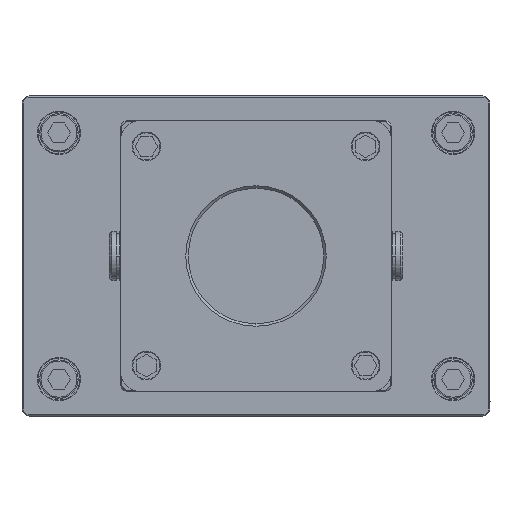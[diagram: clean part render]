
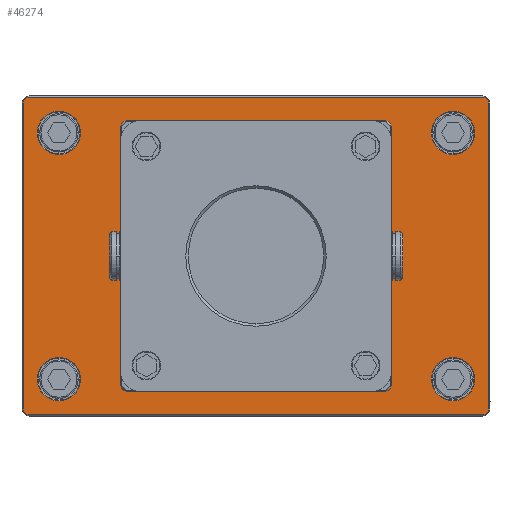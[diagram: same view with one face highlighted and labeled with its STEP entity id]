
A CAD part, front view. The second image highlights one B-rep face of the part: STEP entity #46274.
In plain terms, the highlighted planar face has unit normal (0, -1, 0) as drawn and (0, 1, 0) by its records, which use the part's own axes.
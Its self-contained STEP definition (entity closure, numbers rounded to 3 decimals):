
#44726=CARTESIAN_POINT('',(0.,9.,0.));
#44727=DIRECTION('',(0.,-1.,0.));
#44728=DIRECTION('',(1.,0.,0.));
#44729=AXIS2_PLACEMENT_3D('',#44726,#44727,#44728);
#44731=CARTESIAN_POINT('',(0.,9.,0.));
#44732=DIRECTION('',(0.,-1.,0.));
#44733=DIRECTION('',(-1.,0.,0.));
#44734=AXIS2_PLACEMENT_3D('',#44731,#44732,#44733);
#44736=CARTESIAN_POINT('',(-92.,9.,-62.));
#44737=DIRECTION('',(0.,1.,0.));
#44738=DIRECTION('',(0.,0.,-1.));
#44739=AXIS2_PLACEMENT_3D('',#44736,#44737,#44738);
#44741=DIRECTION('',(-1.,0.,0.));
#44742=VECTOR('',#44741,184.);
#44743=CARTESIAN_POINT('',(92.,9.,
-64.5));
#44744=LINE('',#44743,#44742);
#44745=CARTESIAN_POINT('',(92.,9.,-62.));
#44746=DIRECTION('',(0.,1.,0.));
#44747=DIRECTION('',(1.,0.,0.));
#44748=AXIS2_PLACEMENT_3D('',#44745,#44746,#44747);
#44750=DIRECTION('',(0.,0.,-1.));
#44751=VECTOR('',#44750,124.);
#44752=CARTESIAN_POINT('',(94.5,9.,62.));
#44753=LINE('',#44752,#44751);
#44754=CARTESIAN_POINT('',(92.,9.,62.));
#44755=DIRECTION('',(0.,1.,0.));
#44756=DIRECTION('',(0.,0.,1.));
#44757=AXIS2_PLACEMENT_3D('',#44754,#44755,#44756);
#44759=DIRECTION('',(1.,0.,0.));
#44760=VECTOR('',#44759,184.);
#44761=CARTESIAN_POINT('',(-92.,9.,
64.5));
#44762=LINE('',#44761,#44760);
#44763=CARTESIAN_POINT('',(-92.,9.,62.));
#44764=DIRECTION('',(0.,1.,0.));
#44765=DIRECTION('',(-1.,0.,0.));
#44766=AXIS2_PLACEMENT_3D('',#44763,#44764,#44765);
#44768=DIRECTION('',(0.,0.,1.));
#44769=VECTOR('',#44768,124.);
#44770=CARTESIAN_POINT('',(-94.5,9.,
-62.));
#44771=LINE('',#44770,#44769);
#44772=CARTESIAN_POINT('',(80.,9.,50.));
#44773=DIRECTION('',(0.,-1.,0.));
#44774=DIRECTION('',(1.,0.,0.));
#44775=AXIS2_PLACEMENT_3D('',#44772,#44773,#44774);
#44777=CARTESIAN_POINT('',(80.,9.,50.));
#44778=DIRECTION('',(0.,-1.,0.));
#44779=DIRECTION('',(-1.,0.,0.));
#44780=AXIS2_PLACEMENT_3D('',#44777,#44778,#44779);
#44782=CARTESIAN_POINT('',(-80.,9.,50.));
#44783=DIRECTION('',(0.,-1.,0.));
#44784=DIRECTION('',(1.,0.,0.));
#44785=AXIS2_PLACEMENT_3D('',#44782,#44783,#44784);
#44787=CARTESIAN_POINT('',(-80.,9.,50.));
#44788=DIRECTION('',(0.,-1.,0.));
#44789=DIRECTION('',(-1.,0.,0.));
#44790=AXIS2_PLACEMENT_3D('',#44787,#44788,#44789);
#44792=CARTESIAN_POINT('',(80.,9.,-50.));
#44793=DIRECTION('',(0.,-1.,0.));
#44794=DIRECTION('',(1.,0.,0.));
#44795=AXIS2_PLACEMENT_3D('',#44792,#44793,#44794);
#44797=CARTESIAN_POINT('',(80.,9.,-50.));
#44798=DIRECTION('',(0.,-1.,0.));
#44799=DIRECTION('',(-1.,0.,0.));
#44800=AXIS2_PLACEMENT_3D('',#44797,#44798,#44799);
#44802=CARTESIAN_POINT('',(-80.,9.,-50.));
#44803=DIRECTION('',(0.,-1.,0.));
#44804=DIRECTION('',(1.,0.,0.));
#44805=AXIS2_PLACEMENT_3D('',#44802,#44803,#44804);
#44807=CARTESIAN_POINT('',(-80.,9.,-50.));
#44808=DIRECTION('',(0.,-1.,0.));
#44809=DIRECTION('',(-1.,0.,0.));
#44810=AXIS2_PLACEMENT_3D('',#44807,#44808,#44809);
#44812=CARTESIAN_POINT('',(-44.5,9.,-44.5));
#44813=DIRECTION('',(0.,1.,0.));
#44814=DIRECTION('',(1.,0.,0.));
#44815=AXIS2_PLACEMENT_3D('',#44812,#44813,#44814);
#44817=CARTESIAN_POINT('',(-44.5,9.,-44.5));
#44818=DIRECTION('',(0.,1.,0.));
#44819=DIRECTION('',(-1.,0.,0.));
#44820=AXIS2_PLACEMENT_3D('',#44817,#44818,#44819);
#44822=CARTESIAN_POINT('',(-44.5,9.,44.5));
#44823=DIRECTION('',(0.,1.,0.));
#44824=DIRECTION('',(0.,0.,-1.));
#44825=AXIS2_PLACEMENT_3D('',#44822,#44823,#44824);
#44827=CARTESIAN_POINT('',(-44.5,9.,44.5));
#44828=DIRECTION('',(0.,1.,0.));
#44829=DIRECTION('',(0.,0.,1.));
#44830=AXIS2_PLACEMENT_3D('',#44827,#44828,#44829);
#44832=CARTESIAN_POINT('',(44.5,9.,44.5));
#44833=DIRECTION('',(0.,1.,0.));
#44834=DIRECTION('',(-1.,0.,0.));
#44835=AXIS2_PLACEMENT_3D('',#44832,#44833,#44834);
#44837=CARTESIAN_POINT('',(44.5,9.,44.5));
#44838=DIRECTION('',(0.,1.,0.));
#44839=DIRECTION('',(1.,0.,0.));
#44840=AXIS2_PLACEMENT_3D('',#44837,#44838,#44839);
#44842=CARTESIAN_POINT('',(44.5,9.,-44.5));
#44843=DIRECTION('',(0.,1.,0.));
#44844=DIRECTION('',(0.,0.,1.));
#44845=AXIS2_PLACEMENT_3D('',#44842,#44843,#44844);
#44847=CARTESIAN_POINT('',(44.5,9.,-44.5));
#44848=DIRECTION('',(0.,1.,0.));
#44849=DIRECTION('',(0.,0.,-1.));
#44850=AXIS2_PLACEMENT_3D('',#44847,#44848,#44849);
#45758=CARTESIAN_POINT('',(38.,9.,0.));
#45759=CARTESIAN_POINT('',(-38.,9.,0.));
#45760=VERTEX_POINT('',#45758);
#45761=VERTEX_POINT('',#45759);
#45806=CARTESIAN_POINT('',(-92.,9.,-64.5));
#45807=CARTESIAN_POINT('',(-94.5,9.,-62.));
#45808=VERTEX_POINT('',#45806);
#45809=VERTEX_POINT('',#45807);
#45814=CARTESIAN_POINT('',(-94.5,9.,
62.));
#45815=VERTEX_POINT('',#45814);
#45818=CARTESIAN_POINT('',(-92.,9.,64.5));
#45819=VERTEX_POINT('',#45818);
#45822=CARTESIAN_POINT('',(92.,9.,64.5));
#45823=VERTEX_POINT('',#45822);
#45826=CARTESIAN_POINT('',(94.5,9.,62.));
#45827=VERTEX_POINT('',#45826);
#45830=CARTESIAN_POINT('',(94.5,9.,
-62.));
#45831=VERTEX_POINT('',#45830);
#45834=CARTESIAN_POINT('',(92.,9.,-64.5));
#45835=VERTEX_POINT('',#45834);
#45854=CARTESIAN_POINT('',(88.8,9.,50.));
#45855=CARTESIAN_POINT('',(71.2,9.,50.));
#45856=VERTEX_POINT('',#45854);
#45857=VERTEX_POINT('',#45855);
#45878=CARTESIAN_POINT('',(-71.2,9.,50.));
#45879=CARTESIAN_POINT('',(-88.8,9.,50.));
#45880=VERTEX_POINT('',#45878);
#45881=VERTEX_POINT('',#45879);
#45894=CARTESIAN_POINT('',(88.8,9.,-50.));
#45895=CARTESIAN_POINT('',(71.2,9.,-50.));
#45896=VERTEX_POINT('',#45894);
#45897=VERTEX_POINT('',#45895);
#45902=CARTESIAN_POINT('',(-71.2,9.,-50.));
#45903=CARTESIAN_POINT('',(-88.8,9.,-50.));
#45904=VERTEX_POINT('',#45902);
#45905=VERTEX_POINT('',#45903);
#46002=CARTESIAN_POINT('',(-39.5,9.,-44.5));
#46003=CARTESIAN_POINT('',(-49.5,9.,-44.5));
#46004=VERTEX_POINT('',#46002);
#46005=VERTEX_POINT('',#46003);
#46010=CARTESIAN_POINT('',(-44.5,9.,39.5));
#46011=CARTESIAN_POINT('',(-44.5,9.,49.5));
#46012=VERTEX_POINT('',#46010);
#46013=VERTEX_POINT('',#46011);
#46018=CARTESIAN_POINT('',(39.5,9.,44.5));
#46019=CARTESIAN_POINT('',(49.5,9.,44.5));
#46020=VERTEX_POINT('',#46018);
#46021=VERTEX_POINT('',#46019);
#46026=CARTESIAN_POINT('',(44.5,9.,-39.5));
#46027=CARTESIAN_POINT('',(44.5,9.,-49.5));
#46028=VERTEX_POINT('',#46026);
#46029=VERTEX_POINT('',#46027);
#46198=CARTESIAN_POINT('',(0.,9.,0.));
#46199=DIRECTION('',(0.,1.,0.));
#46200=DIRECTION('',(1.,0.,0.));
#46201=AXIS2_PLACEMENT_3D('',#46198,#46199,#46200);
#46202=PLANE('',#46201);
#46204=ORIENTED_EDGE('',*,*,#46203,.F.);
#46206=ORIENTED_EDGE('',*,*,#46205,.F.);
#46208=ORIENTED_EDGE('',*,*,#46207,.F.);
#46210=ORIENTED_EDGE('',*,*,#46209,.F.);
#46212=ORIENTED_EDGE('',*,*,#46211,.F.);
#46214=ORIENTED_EDGE('',*,*,#46213,.F.);
#46216=ORIENTED_EDGE('',*,*,#46215,.F.);
#46218=ORIENTED_EDGE('',*,*,#46217,.F.);
#46219=EDGE_LOOP('',(#46204,#46206,#46208,#46210,#46212,#46214,#46216,#46218));
#46220=FACE_OUTER_BOUND('',#46219,.F.);
#46222=ORIENTED_EDGE('',*,*,#46221,.F.);
#46223=ORIENTED_EDGE('',*,*,#46188,.F.);
#46224=EDGE_LOOP('',(#46222,#46223));
#46225=FACE_BOUND('',#46224,.F.);
#46227=ORIENTED_EDGE('',*,*,#46226,.F.);
#46229=ORIENTED_EDGE('',*,*,#46228,.F.);
#46230=EDGE_LOOP('',(#46227,#46229));
#46231=FACE_BOUND('',#46230,.F.);
#46233=ORIENTED_EDGE('',*,*,#46232,.F.);
#46235=ORIENTED_EDGE('',*,*,#46234,.F.);
#46236=EDGE_LOOP('',(#46233,#46235));
#46237=FACE_BOUND('',#46236,.F.);
#46239=ORIENTED_EDGE('',*,*,#46238,.F.);
#46241=ORIENTED_EDGE('',*,*,#46240,.F.);
#46242=EDGE_LOOP('',(#46239,#46241));
#46243=FACE_BOUND('',#46242,.F.);
#46245=ORIENTED_EDGE('',*,*,#46244,.F.);
#46247=ORIENTED_EDGE('',*,*,#46246,.F.);
#46248=EDGE_LOOP('',(#46245,#46247));
#46249=FACE_BOUND('',#46248,.F.);
#46251=ORIENTED_EDGE('',*,*,#46250,.T.);
#46253=ORIENTED_EDGE('',*,*,#46252,.T.);
#46254=EDGE_LOOP('',(#46251,#46253));
#46255=FACE_BOUND('',#46254,.F.);
#46257=ORIENTED_EDGE('',*,*,#46256,.T.);
#46259=ORIENTED_EDGE('',*,*,#46258,.T.);
#46260=EDGE_LOOP('',(#46257,#46259));
#46261=FACE_BOUND('',#46260,.F.);
#46263=ORIENTED_EDGE('',*,*,#46262,.T.);
#46265=ORIENTED_EDGE('',*,*,#46264,.T.);
#46266=EDGE_LOOP('',(#46263,#46265));
#46267=FACE_BOUND('',#46266,.F.);
#46269=ORIENTED_EDGE('',*,*,#46268,.T.);
#46271=ORIENTED_EDGE('',*,*,#46270,.T.);
#46272=EDGE_LOOP('',(#46269,#46271));
#46273=FACE_BOUND('',#46272,.F.);
#46274=ADVANCED_FACE('',(#46220,#46225,#46231,#46237,#46243,#46249,#46255,
#46261,#46267,#46273),#46202,.T.);
#44730=CIRCLE('',#44729,38.);
#44735=CIRCLE('',#44734,38.);
#44740=CIRCLE('',#44739,2.5);
#44749=CIRCLE('',#44748,2.5);
#44758=CIRCLE('',#44757,2.5);
#44767=CIRCLE('',#44766,2.5);
#44776=CIRCLE('',#44775,8.8);
#44781=CIRCLE('',#44780,8.8);
#44786=CIRCLE('',#44785,8.8);
#44791=CIRCLE('',#44790,8.8);
#44796=CIRCLE('',#44795,8.8);
#44801=CIRCLE('',#44800,8.8);
#44806=CIRCLE('',#44805,8.8);
#44811=CIRCLE('',#44810,8.8);
#44816=CIRCLE('',#44815,5.);
#44821=CIRCLE('',#44820,5.);
#44826=CIRCLE('',#44825,5.);
#44831=CIRCLE('',#44830,5.);
#44836=CIRCLE('',#44835,5.);
#44841=CIRCLE('',#44840,5.);
#44846=CIRCLE('',#44845,5.);
#44851=CIRCLE('',#44850,5.);
#46188=EDGE_CURVE('',#45761,#45760,#44735,.T.);
#46203=EDGE_CURVE('',#45808,#45809,#44740,.T.);
#46205=EDGE_CURVE('',#45835,#45808,#44744,.T.);
#46207=EDGE_CURVE('',#45831,#45835,#44749,.T.);
#46209=EDGE_CURVE('',#45827,#45831,#44753,.T.);
#46211=EDGE_CURVE('',#45823,#45827,#44758,.T.);
#46213=EDGE_CURVE('',#45819,#45823,#44762,.T.);
#46215=EDGE_CURVE('',#45815,#45819,#44767,.T.);
#46217=EDGE_CURVE('',#45809,#45815,#44771,.T.);
#46221=EDGE_CURVE('',#45760,#45761,#44730,.T.);
#46226=EDGE_CURVE('',#45856,#45857,#44776,.T.);
#46228=EDGE_CURVE('',#45857,#45856,#44781,.T.);
#46232=EDGE_CURVE('',#45880,#45881,#44786,.T.);
#46234=EDGE_CURVE('',#45881,#45880,#44791,.T.);
#46238=EDGE_CURVE('',#45896,#45897,#44796,.T.);
#46240=EDGE_CURVE('',#45897,#45896,#44801,.T.);
#46244=EDGE_CURVE('',#45904,#45905,#44806,.T.);
#46246=EDGE_CURVE('',#45905,#45904,#44811,.T.);
#46250=EDGE_CURVE('',#46004,#46005,#44816,.T.);
#46252=EDGE_CURVE('',#46005,#46004,#44821,.T.);
#46256=EDGE_CURVE('',#46012,#46013,#44826,.T.);
#46258=EDGE_CURVE('',#46013,#46012,#44831,.T.);
#46262=EDGE_CURVE('',#46020,#46021,#44836,.T.);
#46264=EDGE_CURVE('',#46021,#46020,#44841,.T.);
#46268=EDGE_CURVE('',#46028,#46029,#44846,.T.);
#46270=EDGE_CURVE('',#46029,#46028,#44851,.T.);
